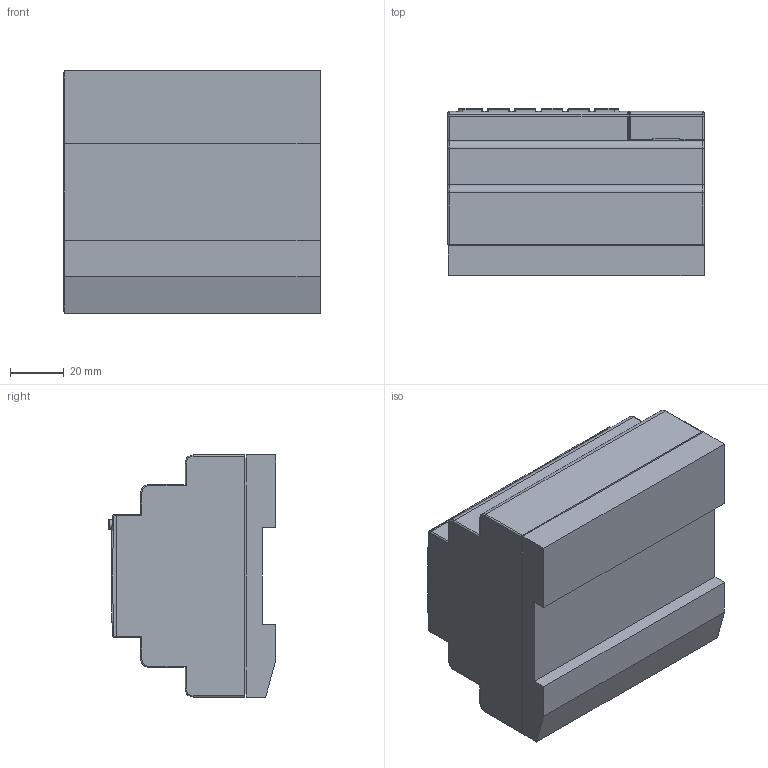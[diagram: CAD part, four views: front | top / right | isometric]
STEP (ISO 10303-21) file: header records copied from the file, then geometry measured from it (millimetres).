
FILE_DESCRIPTION (( 'STEP AP214' ), '1' );
FILE_NAME ('PR-18N Series 3D.STEP', '2018-07-23T03:19:33', ( 'admin' ), ( '' ), 'SwSTEP 2.0', 'SolidWorks 2014', '' );
FILE_SCHEMA (( 'AUTOMOTIVE_DESIGN' ));
Length unit declared in the file: millimetre
Products named in the file (7): PR-18N Series-3; PR-18 Series -2; PR-18N Series-1; PR-18N Series 3D; 瑩簸; 孺桯諳PC裔啣; 珘儒珆尨PC裔啣
Assembly tree (6 placements, depth 2):
  PR-18N Series 3D
    PR-18N Series-1
    PR-18 Series -2
    PR-18N Series-3
    珘儒珆尨PC裔啣
    孺桯諳PC裔啣
    瑩簸
Bounding box: 95.2 x 62.2 x 90 mm (x, y, z)
Volume: 129855.2 mm3; surface area: 82104.9 mm2
Topology: 6 solids, 6 shells, 652 faces, 1748 edges, 1099 vertices
Faces by surface type: plane 387, cylinder 199, bspline 41, torus 19, sphere 6
Entity records: 22118 total; most frequent: CARTESIAN_POINT 4781, ORIENTED_EDGE 3444, DIRECTION 3265, EDGE_CURVE 1722, VECTOR 1263, LINE 1263, VERTEX_POINT 1099, AXIS2_PLACEMENT_3D 1001
